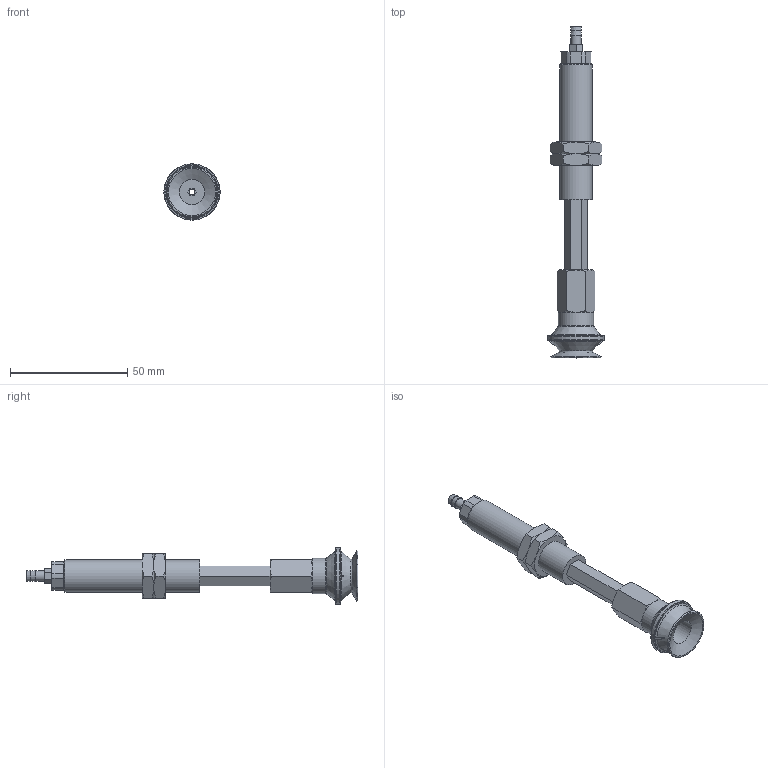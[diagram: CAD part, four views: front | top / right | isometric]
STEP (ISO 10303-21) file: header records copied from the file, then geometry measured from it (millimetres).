
FILE_DESCRIPTION(('STEP AP203'),'1');
FILE_NAME('-T.stp','2025-08-27T01:01:18',(' '),(' '),'Spatial InterOp 3D',' ',' ');
FILE_SCHEMA(('CONFIG_CONTROL_DESIGN'));
Length unit declared in the file: millimetre
Products named in the file (8): BNABPBTH-20-30-※-T; ADAPTER; NAPBTH-20-30-MBODY; Adapter20-T-NAPB; Nut-20-S-PB; NAPBTH-20-30-FBODY; BPBG-20-※; T
Assembly tree (8 placements, depth 2):
  BNABPBTH-20-30-※-T
    ADAPTER
    NAPBTH-20-30-MBODY
    Adapter20-T-NAPB
    Nut-20-S-PB  x2
    NAPBTH-20-30-FBODY
    BPBG-20-※
    T
Bounding box: 24 x 141.5 x 24 mm (x, y, z)
Volume: 19048.4 mm3; surface area: 14832.8 mm2
Topology: 8 solids, 8 shells, 167 faces, 367 edges, 227 vertices
Faces by surface type: plane 81, cone 54, cylinder 23, torus 9
Full cylindrical faces by diameter (mm): 2.5 x1, 3 x3, 4.134 x2, 4.3 x1, 4.6 x1, 5 x2, 10.8 x1, 11 x1, 12.917 x2, 14 x1, 15 x1, 24 x1
Entity records: 4344 total; most frequent: CARTESIAN_POINT 951, DIRECTION 634, ORIENTED_EDGE 544, EDGE_CURVE 272, AXIS2_PLACEMENT_3D 257, EDGE_LOOP 206, VERTEX_POINT 190, FACE_OUTER_BOUND 167
